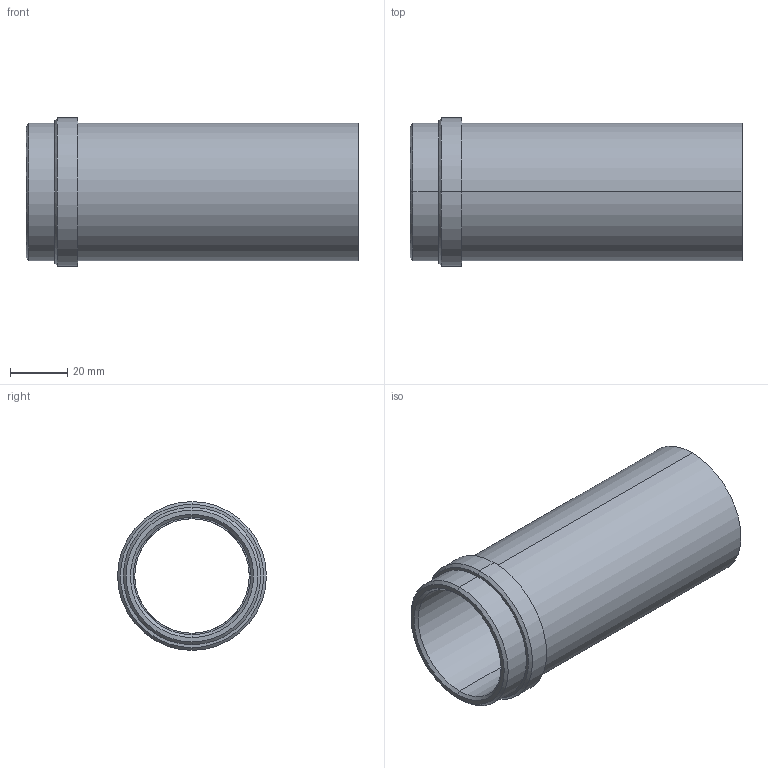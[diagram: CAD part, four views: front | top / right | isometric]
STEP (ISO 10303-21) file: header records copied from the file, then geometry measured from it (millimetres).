
FILE_DESCRIPTION(('CATIA V5 STEP Exchange'),'2;1');
FILE_NAME('C:\Users\Utente\Desktop\IO LAVORO\3D X SITO CF\X SITO\PLASTICA\358\358-40x116.stp','2021-04-09T14:51:20+00:00',('none'),('none'),'CATIA Version 5 Release 20 GA (IN-10)','CATIA V5 STEP AP203','none');
FILE_SCHEMA(('CONFIG_CONTROL_DESIGN'));
Length unit declared in the file: millimetre
Products named in the file (1): 358-40X116
Bounding box: 116 x 52 x 52 mm (x, y, z)
Volume: 64031.1 mm3; surface area: 33650.3 mm2
Topology: 1 solids, 1 shells, 23 faces, 74 edges, 56 vertices
Faces by surface type: cylinder 10, cone 6, plane 5, torus 2
Entity records: 1066 total; most frequent: CARTESIAN_POINT 378, ORIENTED_EDGE 148, DIRECTION 104, EDGE_CURVE 74, AXIS2_PLACEMENT_3D 66, VERTEX_POINT 56, CIRCLE 42, EDGE_LOOP 28
